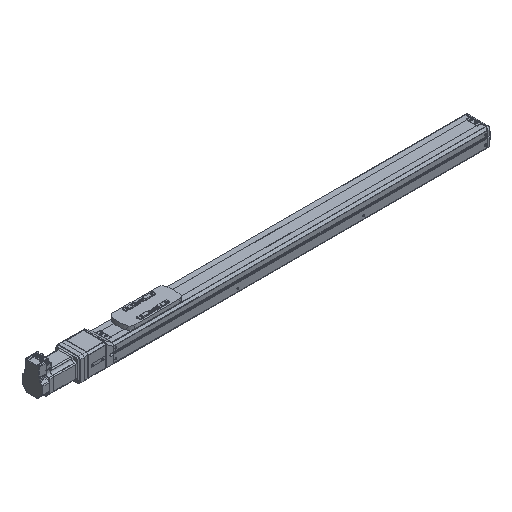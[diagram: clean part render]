
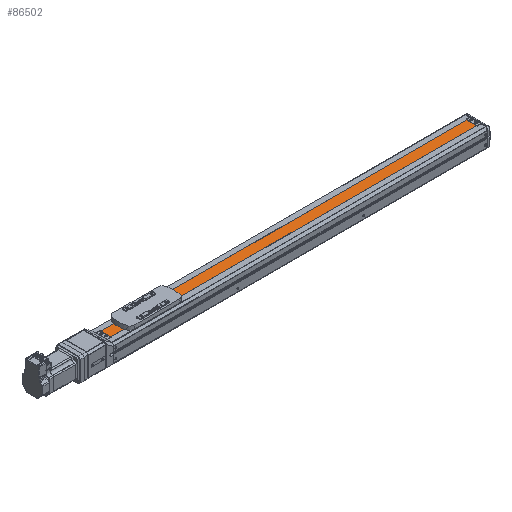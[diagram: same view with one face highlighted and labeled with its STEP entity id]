
A CAD part, isometric view. The second image highlights one B-rep face of the part: STEP entity #86502.
In plain terms, the highlighted planar face has unit normal (0, 0, 1) as drawn and (0, 1, 0) by its records, which use the part's own axes.
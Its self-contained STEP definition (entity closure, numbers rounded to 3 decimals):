
#86502 = ADVANCED_FACE('',(#86503),#86517,.T.);
#86503 = FACE_BOUND('',#86504,.T.);
#86504 = EDGE_LOOP('',(#86505,#86540,#86568,#86596));
#86505 = ORIENTED_EDGE('',*,*,#86506,.F.);
#86506 = EDGE_CURVE('',#86507,#86509,#86511,.T.);
#86507 = VERTEX_POINT('',#86508);
#86508 = CARTESIAN_POINT('',(-980.5,18.,-13.));
#86509 = VERTEX_POINT('',#86510);
#86510 = CARTESIAN_POINT('',(-21.5,18.,-13.));
#86511 = SURFACE_CURVE('',#86512,(#86516,#86528),.PCURVE_S1.);
#86512 = LINE('',#86513,#86514);
#86513 = CARTESIAN_POINT('',(-980.5,18.,-13.));
#86514 = VECTOR('',#86515,1.);
#86515 = DIRECTION('',(1.,0.,0.));
#86516 = PCURVE('',#86517,#86522);
#86517 = PLANE('',#86518);
#86518 = AXIS2_PLACEMENT_3D('',#86519,#86520,#86521);
#86519 = CARTESIAN_POINT('',(-990.5,18.,-26.583));
#86520 = DIRECTION('',(0.,1.,0.));
#86521 = DIRECTION('',(0.,-0.,1.));
#86522 = DEFINITIONAL_REPRESENTATION('',(#86523),#86527);
#86523 = LINE('',#86524,#86525);
#86524 = CARTESIAN_POINT('',(13.583,10.));
#86525 = VECTOR('',#86526,1.);
#86526 = DIRECTION('',(0.,1.));
#86527 = ( GEOMETRIC_REPRESENTATION_CONTEXT(2) 
PARAMETRIC_REPRESENTATION_CONTEXT() REPRESENTATION_CONTEXT('2D SPACE',''
  ) );
#86528 = PCURVE('',#86529,#86534);
#86529 = PLANE('',#86530);
#86530 = AXIS2_PLACEMENT_3D('',#86531,#86532,#86533);
#86531 = CARTESIAN_POINT('',(-980.5,18.,-13.));
#86532 = DIRECTION('',(0.,0.,1.));
#86533 = DIRECTION('',(1.,0.,-0.));
#86534 = DEFINITIONAL_REPRESENTATION('',(#86535),#86539);
#86535 = LINE('',#86536,#86537);
#86536 = CARTESIAN_POINT('',(0.,0.));
#86537 = VECTOR('',#86538,1.);
#86538 = DIRECTION('',(1.,0.));
#86539 = ( GEOMETRIC_REPRESENTATION_CONTEXT(2) 
PARAMETRIC_REPRESENTATION_CONTEXT() REPRESENTATION_CONTEXT('2D SPACE',''
  ) );
#86540 = ORIENTED_EDGE('',*,*,#86541,.T.);
#86541 = EDGE_CURVE('',#86507,#86542,#86544,.T.);
#86542 = VERTEX_POINT('',#86543);
#86543 = CARTESIAN_POINT('',(-980.5,18.,13.));
#86544 = SURFACE_CURVE('',#86545,(#86549,#86556),.PCURVE_S1.);
#86545 = LINE('',#86546,#86547);
#86546 = CARTESIAN_POINT('',(-980.5,18.,-26.583));
#86547 = VECTOR('',#86548,1.);
#86548 = DIRECTION('',(0.,0.,1.));
#86549 = PCURVE('',#86517,#86550);
#86550 = DEFINITIONAL_REPRESENTATION('',(#86551),#86555);
#86551 = LINE('',#86552,#86553);
#86552 = CARTESIAN_POINT('',(0.,10.));
#86553 = VECTOR('',#86554,1.);
#86554 = DIRECTION('',(1.,0.));
#86555 = ( GEOMETRIC_REPRESENTATION_CONTEXT(2) 
PARAMETRIC_REPRESENTATION_CONTEXT() REPRESENTATION_CONTEXT('2D SPACE',''
  ) );
#86556 = PCURVE('',#86557,#86562);
#86557 = PLANE('',#86558);
#86558 = AXIS2_PLACEMENT_3D('',#86559,#86560,#86561);
#86559 = CARTESIAN_POINT('',(-980.5,0.,0.));
#86560 = DIRECTION('',(1.,0.,0.));
#86561 = DIRECTION('',(0.,0.,-1.));
#86562 = DEFINITIONAL_REPRESENTATION('',(#86563),#86567);
#86563 = LINE('',#86564,#86565);
#86564 = CARTESIAN_POINT('',(26.583,18.));
#86565 = VECTOR('',#86566,1.);
#86566 = DIRECTION('',(-1.,0.));
#86567 = ( GEOMETRIC_REPRESENTATION_CONTEXT(2) 
PARAMETRIC_REPRESENTATION_CONTEXT() REPRESENTATION_CONTEXT('2D SPACE',''
  ) );
#86568 = ORIENTED_EDGE('',*,*,#86569,.T.);
#86569 = EDGE_CURVE('',#86542,#86570,#86572,.T.);
#86570 = VERTEX_POINT('',#86571);
#86571 = CARTESIAN_POINT('',(-21.5,18.,13.));
#86572 = SURFACE_CURVE('',#86573,(#86577,#86584),.PCURVE_S1.);
#86573 = LINE('',#86574,#86575);
#86574 = CARTESIAN_POINT('',(-980.5,18.,13.));
#86575 = VECTOR('',#86576,1.);
#86576 = DIRECTION('',(1.,0.,0.));
#86577 = PCURVE('',#86517,#86578);
#86578 = DEFINITIONAL_REPRESENTATION('',(#86579),#86583);
#86579 = LINE('',#86580,#86581);
#86580 = CARTESIAN_POINT('',(39.583,10.));
#86581 = VECTOR('',#86582,1.);
#86582 = DIRECTION('',(0.,1.));
#86583 = ( GEOMETRIC_REPRESENTATION_CONTEXT(2) 
PARAMETRIC_REPRESENTATION_CONTEXT() REPRESENTATION_CONTEXT('2D SPACE',''
  ) );
#86584 = PCURVE('',#86585,#86590);
#86585 = PLANE('',#86586);
#86586 = AXIS2_PLACEMENT_3D('',#86587,#86588,#86589);
#86587 = CARTESIAN_POINT('',(-980.5,15.,13.));
#86588 = DIRECTION('',(0.,0.,-1.));
#86589 = DIRECTION('',(-1.,0.,0.));
#86590 = DEFINITIONAL_REPRESENTATION('',(#86591),#86595);
#86591 = LINE('',#86592,#86593);
#86592 = CARTESIAN_POINT('',(0.,3.));
#86593 = VECTOR('',#86594,1.);
#86594 = DIRECTION('',(-1.,0.));
#86595 = ( GEOMETRIC_REPRESENTATION_CONTEXT(2) 
PARAMETRIC_REPRESENTATION_CONTEXT() REPRESENTATION_CONTEXT('2D SPACE',''
  ) );
#86596 = ORIENTED_EDGE('',*,*,#86597,.T.);
#86597 = EDGE_CURVE('',#86570,#86509,#86598,.T.);
#86598 = SURFACE_CURVE('',#86599,(#86603,#86610),.PCURVE_S1.);
#86599 = LINE('',#86600,#86601);
#86600 = CARTESIAN_POINT('',(-21.5,18.,-26.583));
#86601 = VECTOR('',#86602,1.);
#86602 = DIRECTION('',(0.,0.,-1.));
#86603 = PCURVE('',#86517,#86604);
#86604 = DEFINITIONAL_REPRESENTATION('',(#86605),#86609);
#86605 = LINE('',#86606,#86607);
#86606 = CARTESIAN_POINT('',(0.,969.));
#86607 = VECTOR('',#86608,1.);
#86608 = DIRECTION('',(-1.,0.));
#86609 = ( GEOMETRIC_REPRESENTATION_CONTEXT(2) 
PARAMETRIC_REPRESENTATION_CONTEXT() REPRESENTATION_CONTEXT('2D SPACE',''
  ) );
#86610 = PCURVE('',#86611,#86616);
#86611 = PLANE('',#86612);
#86612 = AXIS2_PLACEMENT_3D('',#86613,#86614,#86615);
#86613 = CARTESIAN_POINT('',(-21.5,0.,0.));
#86614 = DIRECTION('',(1.,0.,0.));
#86615 = DIRECTION('',(0.,0.,-1.));
#86616 = DEFINITIONAL_REPRESENTATION('',(#86617),#86621);
#86617 = LINE('',#86618,#86619);
#86618 = CARTESIAN_POINT('',(26.583,18.));
#86619 = VECTOR('',#86620,1.);
#86620 = DIRECTION('',(1.,0.));
#86621 = ( GEOMETRIC_REPRESENTATION_CONTEXT(2) 
PARAMETRIC_REPRESENTATION_CONTEXT() REPRESENTATION_CONTEXT('2D SPACE',''
  ) );
